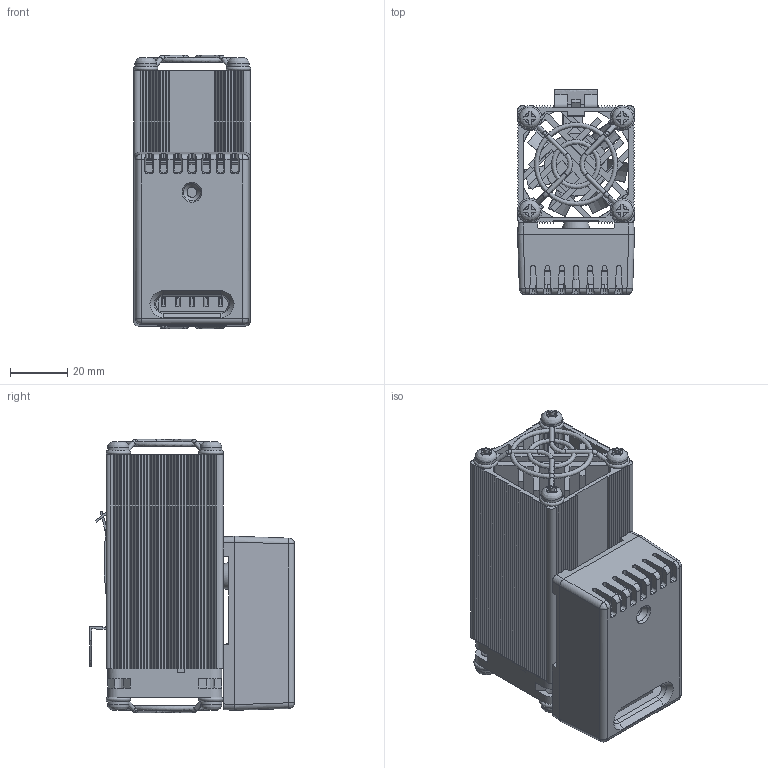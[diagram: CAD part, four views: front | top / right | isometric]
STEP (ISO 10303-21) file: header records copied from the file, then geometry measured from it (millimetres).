
FILE_DESCRIPTION(/* description */ (''),/* implementation_level */ '2;1');
FILE_NAME(/* name */ 'FMHT75~1',/* time_stamp */ '2023-02-24T16:50:31+01:00',/* author */ (''),/* organization */ (''),/* preprocessor_version */ 'ST-DEVELOPER v16.5',/* originating_system */ '',/* authorisation */ '');
FILE_SCHEMA (('AUTOMOTIVE_DESIGN'));
Length unit declared in the file: millimetre
Products named in the file (1): Document
Bounding box: 41.13 x 71.83 x 95.8 mm (x, y, z)
Volume: 80721.3 mm3; surface area: 89497.5 mm2
Topology: 70 solids, 70 shells, 1130 faces, 2853 edges, 1877 vertices
Faces by surface type: plane 805, bspline 325
Entity records: 40610 total; most frequent: CARTESIAN_POINT 21832, ORIENTED_EDGE 5706, EDGE_CURVE 2853, VERTEX_POINT 1876, B_SPLINE_CURVE_WITH_KNOTS 1610, EDGE_LOOP 1201, ADVANCED_FACE 1130, FACE_OUTER_BOUND 1130
